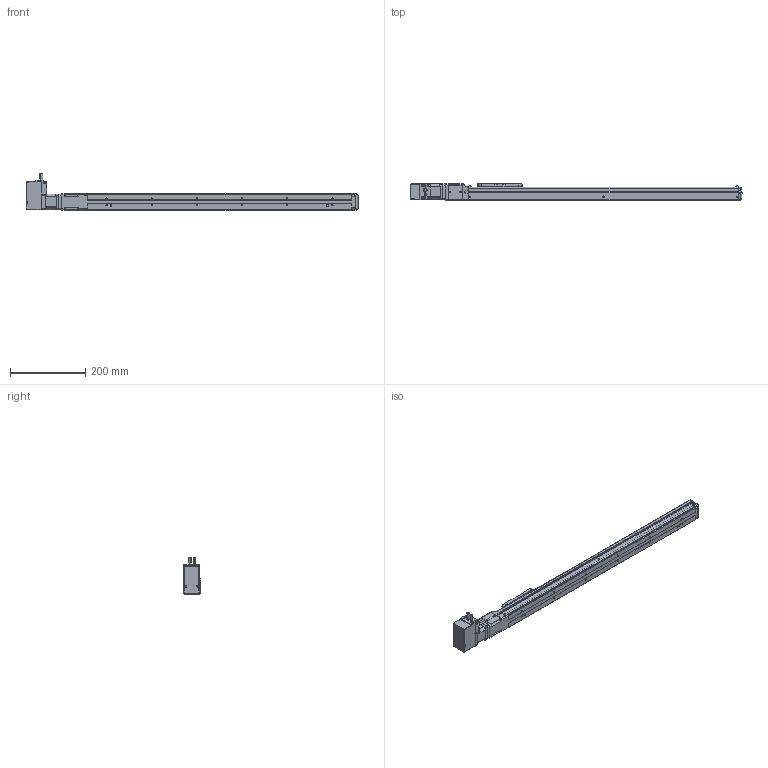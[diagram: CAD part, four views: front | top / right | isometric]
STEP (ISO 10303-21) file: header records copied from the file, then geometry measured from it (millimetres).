
FILE_DESCRIPTION(('FreeCAD Model'),'2;1');
FILE_NAME('Open CASCADE Shape Model','2023-08-01T17:58:47',('Author'),( ''),'Open CASCADE STEP processor 7.5','FreeCAD','Unknown');
FILE_SCHEMA(('AUTOMOTIVE_DESIGN { 1 0 10303 214 1 1 1 1 }'));
Length unit declared in the file: millimetre
Products named in the file (20): RCB0411; Shapes; Shapes001; Shapes002; Shapes003; Shapes004; Shapes005; Shapes006; Shapes007; Shapes008; Shapes009; Shapes010; Shapes011; Shapes012; Shapes013; KSF4-10-0550-0-AR(0); KSF4---(Cover); KSF4-AR---(Motor bracket); KSF4-10-0550---(slider); KSF4-10-0550-0-AR-(05500ARNo0)---(body)
Assembly tree (19 placements, depth 3):
  RCB0411
    Shapes
    Shapes001
    Shapes002
    Shapes003
    Shapes004
    Shapes005
    Shapes006
    Shapes007
    Shapes008
    Shapes009
    Shapes010
    Shapes011
    Shapes012
    Shapes013
    KSF4-10-0550-0-AR(0)
      KSF4---(Cover)
      KSF4-AR---(Motor bracket)
      KSF4-10-0550---(slider)
      KSF4-10-0550-0-AR-(05500ARNo0)---(body)
Bounding box: 882 x 46 x 98.19 mm (x, y, z)
Volume: 1413152.6 mm3; surface area: 268247.7 mm2
Topology: 18 solids, 18 shells, 1261 faces, 3260 edges, 2126 vertices
Faces by surface type: plane 687, cylinder 428, cone 66, torus 51, bspline 19, revolution 6, sphere 4
Full cylindrical faces by diameter (mm): 2.113 x8, 2.459 x3, 3 x6, 3.242 x4, 3.4 x16, 4 x3, 4.5 x2, 5.5 x8, 6 x1, 6.5 x18, 8 x1, 12 x1, 22 x1, 28 x1, 30 x2
Entity records: 92510 total; most frequent: CARTESIAN_POINT 26716, DIRECTION 12367, LINE 7311, VECTOR 7311, ORIENTED_EDGE 6484, PCURVE 6484, DEFINITIONAL_REPRESENTATION 6484, EDGE_CURVE 3242
